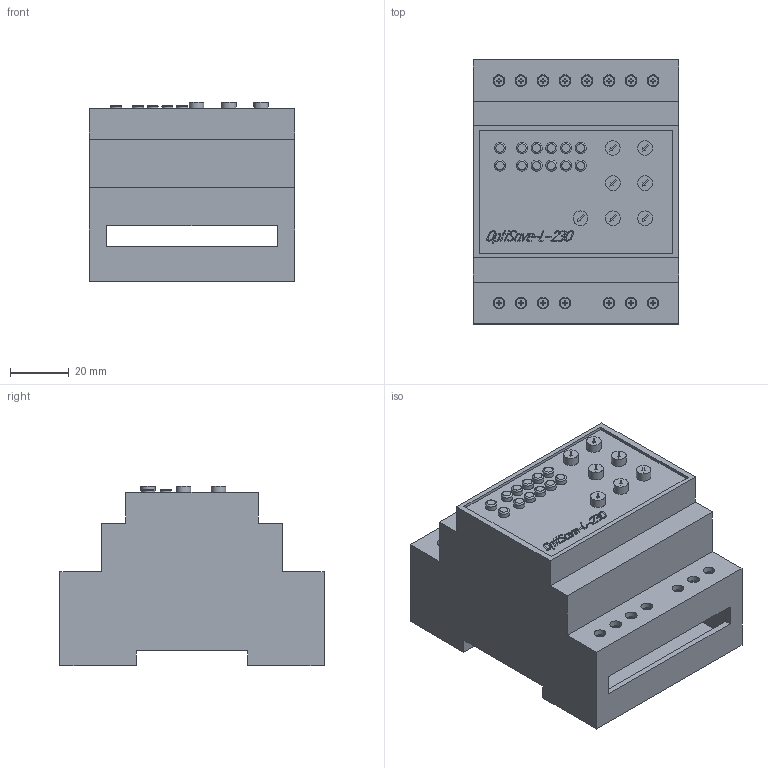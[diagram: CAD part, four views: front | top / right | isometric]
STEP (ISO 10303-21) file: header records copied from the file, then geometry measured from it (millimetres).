
FILE_DESCRIPTION(('STEP AP203'), '1');
FILE_NAME('OptiSave-L-230', '', ('UNSPECIFIED'), ('UNSPECIFIED'), 'ASCON STEP Converter 1.3', 'ASCON Math Kernel', '');
FILE_SCHEMA(('CONFIG_CONTROL_DESIGN'));
Length unit declared in the file: millimetre
Bounding box: 70 x 90 x 61 mm (x, y, z)
Volume: 52273.2 mm3; surface area: 56509.4 mm2
Topology: 16 solids, 16 shells, 789 faces, 2112 edges, 1404 vertices
Faces by surface type: plane 579, extrusion 145, cylinder 53, torus 12
Full cylindrical faces by diameter (mm): 3.42 x15, 3.8 x12, 4 x15, 5 x7
Entity records: 30984 total; most frequent: CARTESIAN_POINT 5361, ORIENTED_EDGE 4102, DIRECTION 3314, EDGE_CURVE 2051, VECTOR 1788, LINE 1643, VERTEX_POINT 1404, EDGE_LOOP 961
